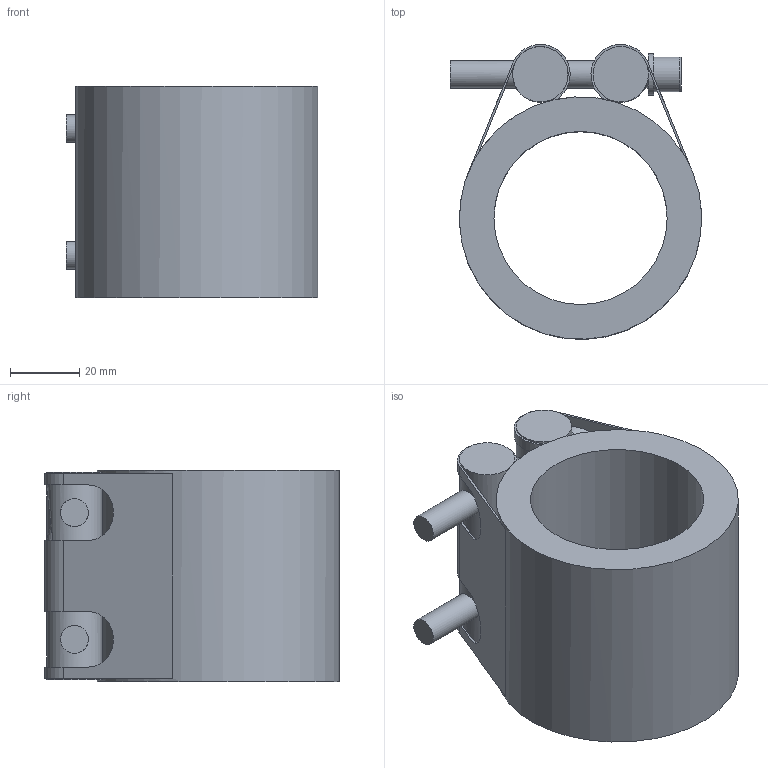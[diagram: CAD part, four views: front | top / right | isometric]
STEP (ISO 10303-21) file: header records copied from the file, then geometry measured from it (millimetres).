
FILE_DESCRIPTION(/* description */ ('Standard Produkte / Standard Products'),/* implementation_level */ '2;1');
FILE_NAME(/* name */ 'C:\Users\BR_11K\Desktop\STRAUB PLAST-GRIP 50.0 mm.stp',/* time_stamp */ '2016-05-04T08:35:00+02:00',/* author */ ('BR_11K'),/* organization */ (''),/* preprocessor_version */ 'ST-DEVELOPER v16.1',/* originating_system */ 'Autodesk Inventor 2016',/* authorisation */ '');
FILE_SCHEMA (('AUTOMOTIVE_DESIGN { 1 0 10303 214 3 1 1 }'));
Length unit declared in the file: millimetre
Products named in the file (1): STRAUB PLAST-GRIP 50.0 mm
Bounding box: 72.58 x 85.08 x 61 mm (x, y, z)
Volume: 145640.2 mm3; surface area: 40795.5 mm2
Topology: 1 solids, 1 shells, 88 faces, 260 edges, 167 vertices
Faces by surface type: plane 56, cylinder 30, torus 2
Full cylindrical faces by diameter (mm): 8 x4, 10 x2, 12 x2, 16 x2, 50 x1, 70 x1
Entity records: 3052 total; most frequent: CARTESIAN_POINT 739, DIRECTION 476, ORIENTED_EDGE 460, EDGE_CURVE 226, AXIS2_PLACEMENT_3D 171, VERTEX_POINT 156, LINE 134, VECTOR 134
